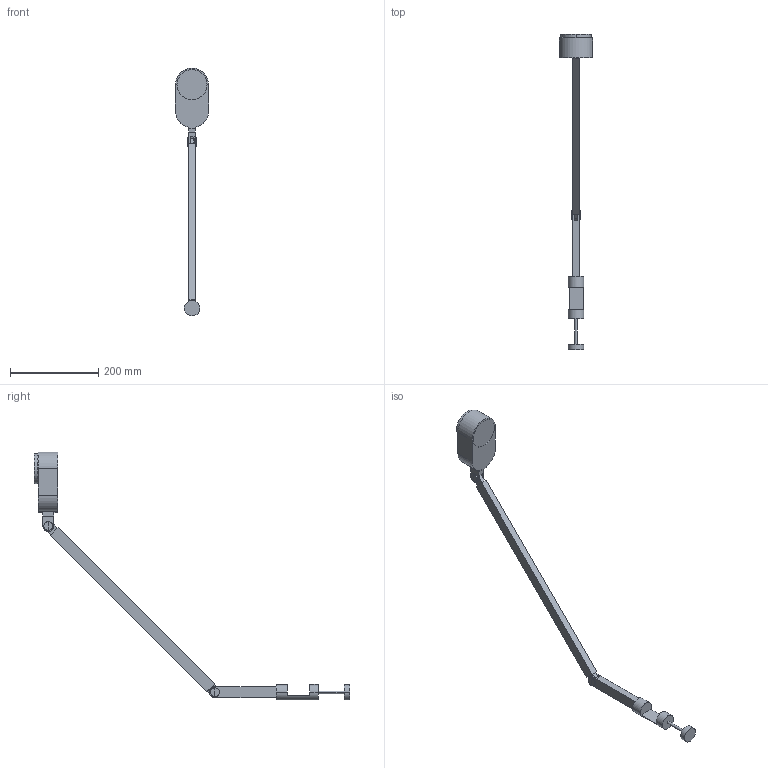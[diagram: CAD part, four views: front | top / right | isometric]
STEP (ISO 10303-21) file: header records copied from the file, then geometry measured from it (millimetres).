
FILE_DESCRIPTION(/* description */ (''),/* implementation_level */ '2;1');
FILE_NAME(/* name */ 'inviting_cliplamp.step',/* time_stamp */ '2025-03-12T13:37:52+01:00',/* author */ ('RenataManzini'),/* organization */ (''),/* preprocessor_version */ 'ST-DEVELOPER v20',/* originating_system */ 'AutoCAD Mechanical',/* authorisation */ '');
FILE_SCHEMA (('AUTOMOTIVE_DESIGN { 1 0 10303 214 3 1 1 }'));
Length unit declared in the file: millimetre
Products named in the file (6): Product; FamilyGeomCombination_634609-_3D_; FamilyGeomCombination_635873-_3D_; FamilyGeomCombination_644365-_3D_; FamilyGeomCombination_644481-_3D_; FamilyGeomCombination_645031-_3D_
Assembly tree (5 placements, depth 2):
  Product
    FamilyGeomCombination_634609-_3D_
    FamilyGeomCombination_635873-_3D_
    FamilyGeomCombination_644365-_3D_
    FamilyGeomCombination_644481-_3D_
    FamilyGeomCombination_645031-_3D_
Bounding box: 75 x 712.55 x 560.65 mm (x, y, z)
Volume: 756059.3 mm3; surface area: 135906.7 mm2
Topology: 15 solids, 15 shells, 117 faces, 241 edges, 153 vertices
Faces by surface type: plane 77, cylinder 40
Entity records: 3196 total; most frequent: DIRECTION 582, CARTESIAN_POINT 523, ORIENTED_EDGE 476, EDGE_CURVE 238, AXIS2_PLACEMENT_3D 213, LINE 156, VECTOR 156, VERTEX_POINT 148
